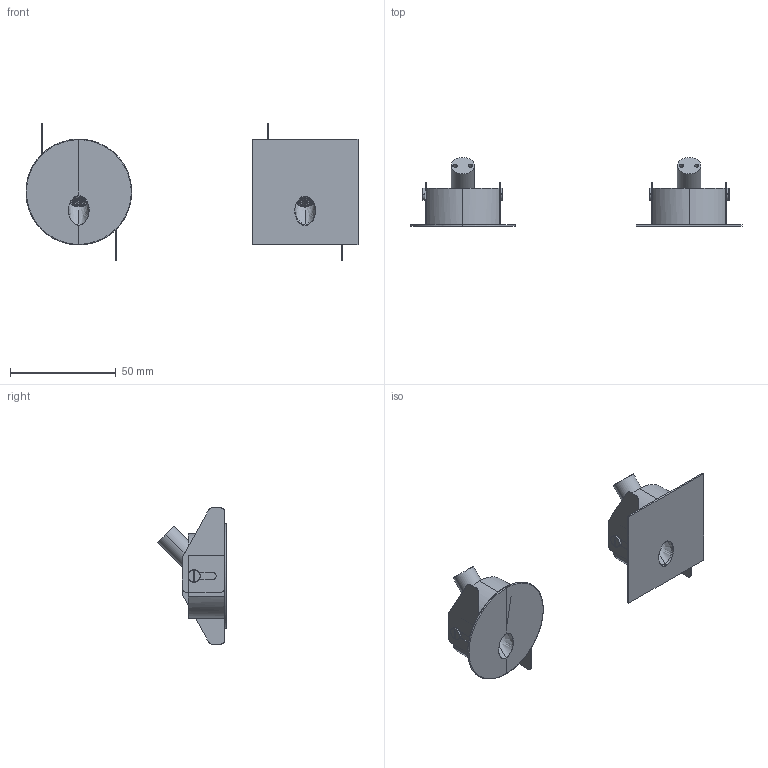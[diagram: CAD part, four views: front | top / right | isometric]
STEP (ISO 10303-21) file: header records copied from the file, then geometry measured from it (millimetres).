
FILE_DESCRIPTION(/* description */ (''),/* implementation_level */ '2;1');
FILE_NAME(/* name */ 'Step',/* time_stamp */ '2025-06-19T11:02:07+02:00',/* author */ (''),/* organization */ (''),/* preprocessor_version */ 'ST-DEVELOPER v15',/* originating_system */ '',/* authorisation */ '');
FILE_SCHEMA (('CONFIG_CONTROL_DESIGN'));
Length unit declared in the file: millimetre
Products named in the file (1): Document
Bounding box: 156.94 x 32.54 x 64.5 mm (x, y, z)
Volume: 7668.3 mm3; surface area: 25039.3 mm2
Topology: 9 solids, 15 shells, 442 faces, 1062 edges, 630 vertices
Faces by surface type: bspline 442
Entity records: 38826 total; most frequent: CARTESIAN_POINT 25982, B_SPLINE_CURVE_WITH_KNOTS 2406, ORIENTED_EDGE 2037, PCURVE 2037, DEFINITIONAL_REPRESENTATION 2037, SURFACE_CURVE 1052, EDGE_CURVE 1052, VERTEX_POINT 630
